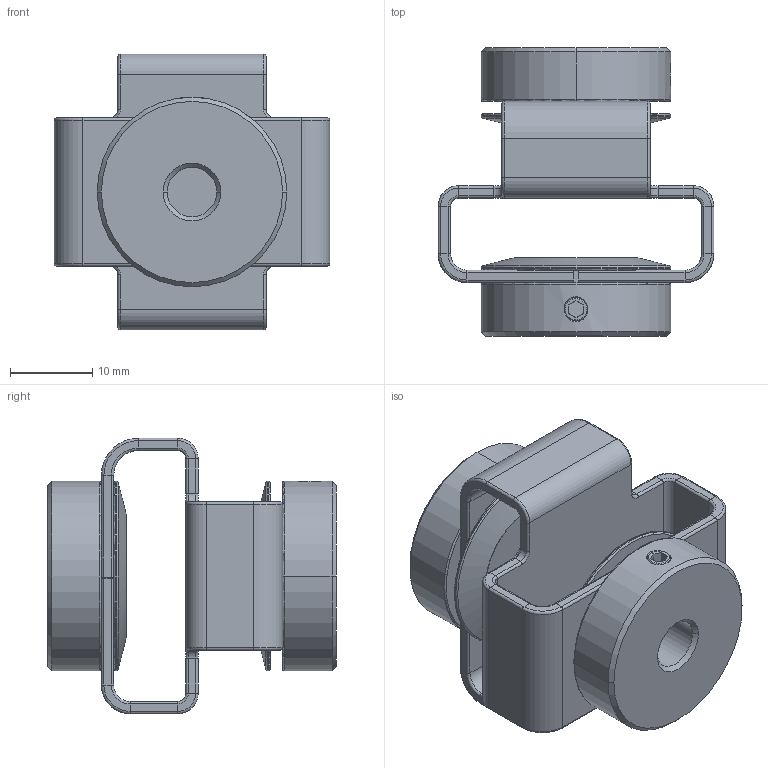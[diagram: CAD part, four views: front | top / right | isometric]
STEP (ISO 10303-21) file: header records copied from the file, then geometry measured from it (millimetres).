
FILE_DESCRIPTION (( 'STEP AP214' ), '1' );
FILE_NAME ('94FLX02_6_6.STEP', '2024-06-17T08:48:43', ( '' ), ( '' ), 'SwSTEP 2.0', 'SolidWorks 2019', '' );
FILE_SCHEMA (( 'AUTOMOTIVE_DESIGN' ));
Length unit declared in the file: millimetre
Products named in the file (1): 94FLX02_6_6
Bounding box: 33.47 x 35 x 33.47 mm (x, y, z)
Volume: 9617.8 mm3; surface area: 7270.6 mm2
Topology: 1 solids, 1 shells, 261 faces, 577 edges, 320 vertices
Faces by surface type: plane 96, cylinder 89, torus 56, cone 20
Entity records: 10138 total; most frequent: DIRECTION 1369, CARTESIAN_POINT 1341, ORIENTED_EDGE 1154, EDGE_CURVE 577, AXIS2_PLACEMENT_3D 540, VERTEX_POINT 320, LINE 289, VECTOR 289
